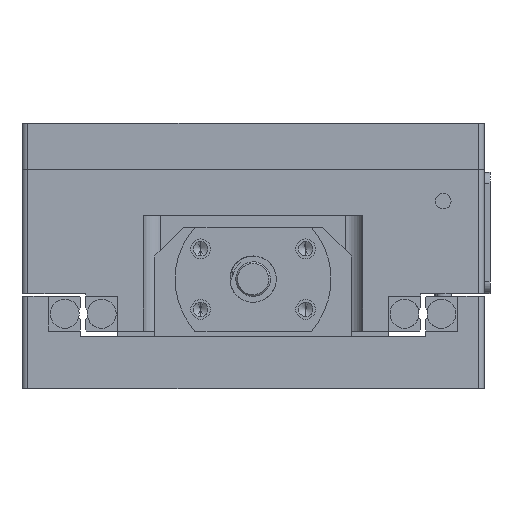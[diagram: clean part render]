
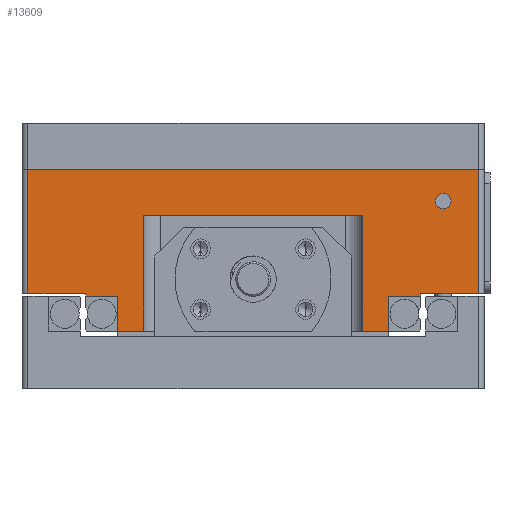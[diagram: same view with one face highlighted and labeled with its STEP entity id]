
A CAD part, left-side view. The second image highlights one B-rep face of the part: STEP entity #13609.
In plain terms, the highlighted planar face has unit normal (-1, 0, 0).
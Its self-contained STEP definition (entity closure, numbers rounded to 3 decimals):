
#468 = EDGE_CURVE ( 'NONE', #3829, #16617, #20549, .T. ) ;
#551 = VECTOR ( 'NONE', #13255, 1000. ) ;
#1003 = DIRECTION ( 'NONE',  ( 0., 1., 0. ) ) ;
#1646 = EDGE_CURVE ( 'NONE', #2634, #16445, #21067, .T. ) ;
#2248 = CARTESIAN_POINT ( 'NONE',  ( -40., 23.4, -6. ) ) ;
#2312 = VECTOR ( 'NONE', #21977, 1000. ) ;
#2436 = CARTESIAN_POINT ( 'NONE',  ( -40., -40., 22. ) ) ;
#2455 = LINE ( 'NONE', #4146, #2312 ) ;
#2634 = VERTEX_POINT ( 'NONE', #7339 ) ;
#2731 = DIRECTION ( 'NONE',  ( 0., 1., 0. ) ) ;
#3082 = CARTESIAN_POINT ( 'NONE',  ( -40., -19., -6. ) ) ;
#3281 = DIRECTION ( 'NONE',  ( 0., 0., 1. ) ) ;
#3351 = LINE ( 'NONE', #7499, #15296 ) ;
#3366 = VERTEX_POINT ( 'NONE', #15320 ) ;
#3477 = CARTESIAN_POINT ( 'NONE',  ( -40., -39., 22. ) ) ;
#3829 = VERTEX_POINT ( 'NONE', #6201 ) ;
#4101 = ORIENTED_EDGE ( 'NONE', *, *, #11065, .T. ) ;
#4125 = VERTEX_POINT ( 'NONE', #25570 ) ;
#4146 = CARTESIAN_POINT ( 'NONE',  ( -40., 23.4, -6. ) ) ;
#4285 = VECTOR ( 'NONE', #12524, 1000. ) ;
#4803 = VERTEX_POINT ( 'NONE', #18442 ) ;
#5347 = CARTESIAN_POINT ( 'NONE',  ( -40., -40., 22. ) ) ;
#5680 = VERTEX_POINT ( 'NONE', #16609 ) ;
#5745 = CARTESIAN_POINT ( 'NONE',  ( -40., -23.4, -6. ) ) ;
#5984 = VECTOR ( 'NONE', #10679, 1000. ) ;
#6153 = LINE ( 'NONE', #10160, #11531 ) ;
#6201 = CARTESIAN_POINT ( 'NONE',  ( -40., 19., -6. ) ) ;
#6312 = VECTOR ( 'NONE', #12786, 1000. ) ;
#6508 = EDGE_CURVE ( 'NONE', #24190, #12480, #20616, .T. ) ;
#6682 = LINE ( 'NONE', #16180, #4285 ) ;
#7083 = AXIS2_PLACEMENT_3D ( 'NONE', #2436, #10344, #16337 ) ;
#7169 = LINE ( 'NONE', #24869, #8486 ) ;
#7339 = CARTESIAN_POINT ( 'NONE',  ( -40., -39., 0.5 ) ) ;
#7499 = CARTESIAN_POINT ( 'NONE',  ( -40., 19., 14. ) ) ;
#7580 = EDGE_LOOP ( 'NONE', ( #21744, #16343, #18296, #21578, #13476, #14826, #4101, #10614, #19710, #16437, #8945, #15325, #21994, #15083, #17496, #24117 ) ) ;
#7890 = EDGE_CURVE ( 'NONE', #16445, #23268, #25364, .T. ) ;
#8086 = CARTESIAN_POINT ( 'NONE',  ( -40., 23.4, 0. ) ) ;
#8402 = FACE_OUTER_BOUND ( 'NONE', #7580, .T. ) ;
#8486 = VECTOR ( 'NONE', #13157, 1000. ) ;
#8669 = EDGE_CURVE ( 'NONE', #5680, #23994, #2455, .T. ) ;
#8727 = DIRECTION ( 'NONE',  ( 0., -1., 0. ) ) ;
#8738 = VECTOR ( 'NONE', #20525, 1000. ) ;
#8945 = ORIENTED_EDGE ( 'NONE', *, *, #21491, .F. ) ;
#9113 = LINE ( 'NONE', #5347, #21985 ) ;
#9220 = DIRECTION ( 'NONE',  ( 0., 1., 0. ) ) ;
#10160 = CARTESIAN_POINT ( 'NONE',  ( -40., -19., 14. ) ) ;
#10344 = DIRECTION ( 'NONE',  ( 1., 0., 0. ) ) ;
#10388 = CARTESIAN_POINT ( 'NONE',  ( -40., 23.4, -6. ) ) ;
#10434 = VECTOR ( 'NONE', #3281, 1000. ) ;
#10614 = ORIENTED_EDGE ( 'NONE', *, *, #7890, .F. ) ;
#10679 = DIRECTION ( 'NONE',  ( 0., 0., 1. ) ) ;
#11065 = EDGE_CURVE ( 'NONE', #3366, #23268, #6682, .T. ) ;
#11392 = DIRECTION ( 'NONE',  ( 0., 0., 1. ) ) ;
#11427 = LINE ( 'NONE', #17160, #16011 ) ;
#11531 = VECTOR ( 'NONE', #14078, 1000. ) ;
#11595 = EDGE_CURVE ( 'NONE', #16617, #12480, #14072, .T. ) ;
#11615 = CARTESIAN_POINT ( 'NONE',  ( -40., -29., 0. ) ) ;
#11816 = EDGE_CURVE ( 'NONE', #4125, #23797, #7169, .T. ) ;
#12480 = VERTEX_POINT ( 'NONE', #8086 ) ;
#12524 = DIRECTION ( 'NONE',  ( 0., -1., 0. ) ) ;
#12779 = CARTESIAN_POINT ( 'NONE',  ( -40., 40., 0.5 ) ) ;
#12786 = DIRECTION ( 'NONE',  ( 0., -1., 0. ) ) ;
#13157 = DIRECTION ( 'NONE',  ( 0., 0., -1. ) ) ;
#13255 = DIRECTION ( 'NONE',  ( 0., 0., -1. ) ) ;
#13362 = LINE ( 'NONE', #3477, #20552 ) ;
#13476 = ORIENTED_EDGE ( 'NONE', *, *, #8669, .F. ) ;
#13609 = ADVANCED_FACE ( 'NONE', ( #8402 ), #22333, .F. ) ;
#14072 = LINE ( 'NONE', #2248, #5984 ) ;
#14078 = DIRECTION ( 'NONE',  ( 0., 0., -1. ) ) ;
#14087 = CARTESIAN_POINT ( 'NONE',  ( -40., 19., 14. ) ) ;
#14280 = EDGE_CURVE ( 'NONE', #5680, #3366, #17047, .T. ) ;
#14407 = VERTEX_POINT ( 'NONE', #19905 ) ;
#14790 = LINE ( 'NONE', #18691, #8738 ) ;
#14826 = ORIENTED_EDGE ( 'NONE', *, *, #14280, .T. ) ;
#15077 = DIRECTION ( 'NONE',  ( 0., 0., -1. ) ) ;
#15083 = ORIENTED_EDGE ( 'NONE', *, *, #18158, .T. ) ;
#15208 = CARTESIAN_POINT ( 'NONE',  ( -40., -29., 0.5 ) ) ;
#15296 = VECTOR ( 'NONE', #1003, 1000. ) ;
#15320 = CARTESIAN_POINT ( 'NONE',  ( -40., -23.4, 0. ) ) ;
#15325 = ORIENTED_EDGE ( 'NONE', *, *, #11816, .T. ) ;
#15463 = CARTESIAN_POINT ( 'NONE',  ( -40., -40., 0.5 ) ) ;
#16011 = VECTOR ( 'NONE', #15077, 1000. ) ;
#16174 = VECTOR ( 'NONE', #22163, 1000. ) ;
#16180 = CARTESIAN_POINT ( 'NONE',  ( -40., -40., 0. ) ) ;
#16337 = DIRECTION ( 'NONE',  ( 0., 0., -1. ) ) ;
#16343 = ORIENTED_EDGE ( 'NONE', *, *, #24093, .F. ) ;
#16363 = CARTESIAN_POINT ( 'NONE',  ( -40., -39., 22. ) ) ;
#16431 = LINE ( 'NONE', #12779, #16174 ) ;
#16437 = ORIENTED_EDGE ( 'NONE', *, *, #18706, .T. ) ;
#16445 = VERTEX_POINT ( 'NONE', #22016 ) ;
#16609 = CARTESIAN_POINT ( 'NONE',  ( -40., -23.4, -6. ) ) ;
#16617 = VERTEX_POINT ( 'NONE', #22910 ) ;
#17047 = LINE ( 'NONE', #5745, #10434 ) ;
#17160 = CARTESIAN_POINT ( 'NONE',  ( -40., 29., 0.5 ) ) ;
#17496 = ORIENTED_EDGE ( 'NONE', *, *, #6508, .T. ) ;
#18055 = VECTOR ( 'NONE', #2731, 1000. ) ;
#18158 = EDGE_CURVE ( 'NONE', #14407, #24190, #11427, .T. ) ;
#18296 = ORIENTED_EDGE ( 'NONE', *, *, #21110, .F. ) ;
#18442 = CARTESIAN_POINT ( 'NONE',  ( -40., -19., 14. ) ) ;
#18691 = CARTESIAN_POINT ( 'NONE',  ( -40., 19., 14. ) ) ;
#18706 = EDGE_CURVE ( 'NONE', #2634, #21871, #13362, .T. ) ;
#19710 = ORIENTED_EDGE ( 'NONE', *, *, #1646, .F. ) ;
#19905 = CARTESIAN_POINT ( 'NONE',  ( -40., 29., 0.5 ) ) ;
#20125 = VECTOR ( 'NONE', #9220, 1000. ) ;
#20487 = EDGE_CURVE ( 'NONE', #4803, #23994, #6153, .T. ) ;
#20525 = DIRECTION ( 'NONE',  ( 0., 0., -1. ) ) ;
#20549 = LINE ( 'NONE', #10388, #18055 ) ;
#20552 = VECTOR ( 'NONE', #11392, 1000. ) ;
#20616 = LINE ( 'NONE', #20745, #6312 ) ;
#20745 = CARTESIAN_POINT ( 'NONE',  ( -40., -40., 0. ) ) ;
#21067 = LINE ( 'NONE', #15463, #20125 ) ;
#21110 = EDGE_CURVE ( 'NONE', #4803, #23404, #3351, .T. ) ;
#21178 = CARTESIAN_POINT ( 'NONE',  ( -40., 29., 0. ) ) ;
#21491 = EDGE_CURVE ( 'NONE', #4125, #21871, #9113, .T. ) ;
#21578 = ORIENTED_EDGE ( 'NONE', *, *, #20487, .T. ) ;
#21744 = ORIENTED_EDGE ( 'NONE', *, *, #468, .F. ) ;
#21871 = VERTEX_POINT ( 'NONE', #16363 ) ;
#21977 = DIRECTION ( 'NONE',  ( 0., 1., 0. ) ) ;
#21985 = VECTOR ( 'NONE', #8727, 1000. ) ;
#21994 = ORIENTED_EDGE ( 'NONE', *, *, #22337, .F. ) ;
#22016 = CARTESIAN_POINT ( 'NONE',  ( -40., -29., 0.5 ) ) ;
#22163 = DIRECTION ( 'NONE',  ( 0., 1., 0. ) ) ;
#22219 = CARTESIAN_POINT ( 'NONE',  ( -40., 39., 0.5 ) ) ;
#22333 = PLANE ( 'NONE',  #7083 ) ;
#22337 = EDGE_CURVE ( 'NONE', #14407, #23797, #16431, .T. ) ;
#22910 = CARTESIAN_POINT ( 'NONE',  ( -40., 23.4, -6. ) ) ;
#23268 = VERTEX_POINT ( 'NONE', #11615 ) ;
#23404 = VERTEX_POINT ( 'NONE', #14087 ) ;
#23797 = VERTEX_POINT ( 'NONE', #22219 ) ;
#23994 = VERTEX_POINT ( 'NONE', #3082 ) ;
#24093 = EDGE_CURVE ( 'NONE', #23404, #3829, #14790, .T. ) ;
#24117 = ORIENTED_EDGE ( 'NONE', *, *, #11595, .F. ) ;
#24190 = VERTEX_POINT ( 'NONE', #21178 ) ;
#24869 = CARTESIAN_POINT ( 'NONE',  ( -40., 39., 22. ) ) ;
#25364 = LINE ( 'NONE', #15208, #551 ) ;
#25570 = CARTESIAN_POINT ( 'NONE',  ( -40., 39., 22. ) ) ;
